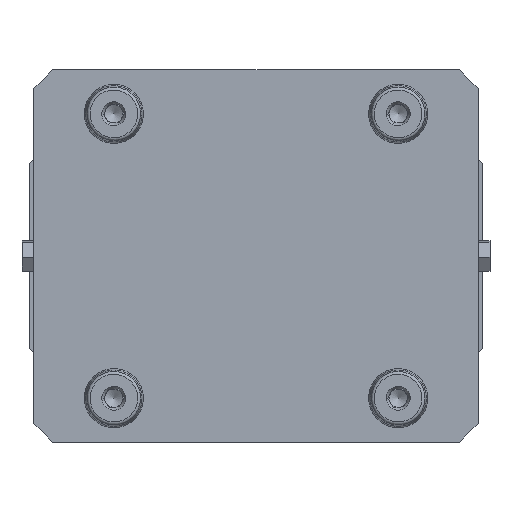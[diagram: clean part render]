
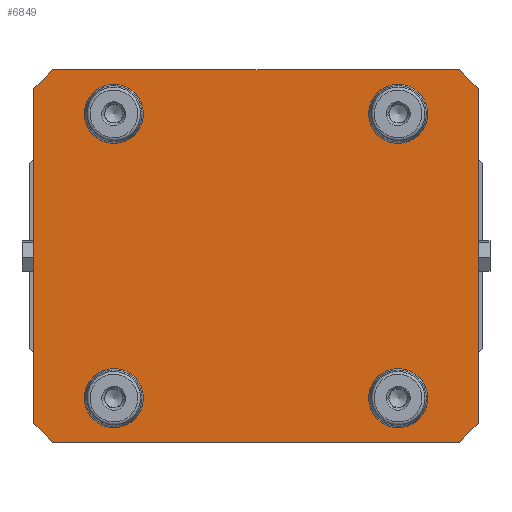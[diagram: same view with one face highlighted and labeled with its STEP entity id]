
A CAD part, front view. The second image highlights one B-rep face of the part: STEP entity #6849.
In plain terms, the highlighted planar face has unit normal (0, -1, 0).
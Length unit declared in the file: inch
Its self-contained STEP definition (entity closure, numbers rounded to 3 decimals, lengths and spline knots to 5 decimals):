
#622 = VECTOR ( 'NONE', #13980, 39.37008 ) ;
#709 = ORIENTED_EDGE ( 'NONE', *, *, #10777, .F. ) ;
#968 = CARTESIAN_POINT ( 'NONE',  ( 2.70276, 0., -2.475 ) ) ;
#1224 = VERTEX_POINT ( 'NONE', #7122 ) ;
#1393 = VERTEX_POINT ( 'NONE', #4914 ) ;
#1601 = CARTESIAN_POINT ( 'NONE',  ( -1.88976, 0., -1.88976 ) ) ;
#2154 = CARTESIAN_POINT ( 'NONE',  ( 2.95276, 0., 2.225 ) ) ;
#2334 = LINE ( 'NONE', #10472, #622 ) ;
#2337 = CARTESIAN_POINT ( 'NONE',  ( -2.95276, 0., -2.475 ) ) ;
#2408 = VERTEX_POINT ( 'NONE', #968 ) ;
#2642 = VECTOR ( 'NONE', #11661, 39.37008 ) ;
#2701 = EDGE_CURVE ( 'NONE', #4814, #3915, #6454, .T. ) ;
#3148 = VERTEX_POINT ( 'NONE', #6678 ) ;
#3407 = CIRCLE ( 'NONE', #11507, 0.31535 ) ;
#3915 = VERTEX_POINT ( 'NONE', #10150 ) ;
#3957 = CARTESIAN_POINT ( 'NONE',  ( -1.88976, 0., 1.88976 ) ) ;
#4062 = AXIS2_PLACEMENT_3D ( 'NONE', #3957, #5264, #10307 ) ;
#4245 = CIRCLE ( 'NONE', #7046, 0.31535 ) ;
#4323 = DIRECTION ( 'NONE',  ( -1., 0., 0. ) ) ;
#4623 = DIRECTION ( 'NONE',  ( 0., 0., 1. ) ) ;
#4663 = ORIENTED_EDGE ( 'NONE', *, *, #20624, .T. ) ;
#4680 = DIRECTION ( 'NONE',  ( 0., -1., 0. ) ) ;
#4732 = FACE_OUTER_BOUND ( 'NONE', #6354, .T. ) ;
#4814 = VERTEX_POINT ( 'NONE', #7847 ) ;
#4914 = CARTESIAN_POINT ( 'NONE',  ( -1.88976, 0., -1.57441 ) ) ;
#4915 = CARTESIAN_POINT ( 'NONE',  ( -2.95276, 0., -2.225 ) ) ;
#4943 = CARTESIAN_POINT ( 'NONE',  ( 2.95276, 0., 2.225 ) ) ;
#4956 = VECTOR ( 'NONE', #6575, 39.37008 ) ;
#5264 = DIRECTION ( 'NONE',  ( 0., -1., 0. ) ) ;
#5392 = ORIENTED_EDGE ( 'NONE', *, *, #13054, .F. ) ;
#6354 = EDGE_LOOP ( 'NONE', ( #12529, #11149, #16834, #9809, #7419, #4663, #5392, #16797 ) ) ;
#6454 = LINE ( 'NONE', #4915, #4956 ) ;
#6575 = DIRECTION ( 'NONE',  ( 0.707, 0., -0.707 ) ) ;
#6678 = CARTESIAN_POINT ( 'NONE',  ( 1.88976, 0., 2.20511 ) ) ;
#6849 = ADVANCED_FACE ( 'NONE', ( #14961, #16400, #13201, #19986, #4732 ), #13406, .F. ) ;
#6876 = CIRCLE ( 'NONE', #4062, 0.31535 ) ;
#7046 = AXIS2_PLACEMENT_3D ( 'NONE', #18528, #4680, #14797 ) ;
#7122 = CARTESIAN_POINT ( 'NONE',  ( 2.70276, 0., 2.475 ) ) ;
#7201 = VECTOR ( 'NONE', #15753, 39.37008 ) ;
#7419 = ORIENTED_EDGE ( 'NONE', *, *, #17181, .F. ) ;
#7847 = CARTESIAN_POINT ( 'NONE',  ( -2.95276, 0., -2.225 ) ) ;
#7988 = VERTEX_POINT ( 'NONE', #11629 ) ;
#8007 = CARTESIAN_POINT ( 'NONE',  ( 2.95276, 0., -2.475 ) ) ;
#8216 = DIRECTION ( 'NONE',  ( 0., 0., -1. ) ) ;
#8313 = DIRECTION ( 'NONE',  ( 0., 0., 1. ) ) ;
#8354 = DIRECTION ( 'NONE',  ( 0., 1., 0. ) ) ;
#8700 = EDGE_CURVE ( 'NONE', #2408, #8899, #10637, .T. ) ;
#8858 = VERTEX_POINT ( 'NONE', #14019 ) ;
#8888 = ORIENTED_EDGE ( 'NONE', *, *, #12548, .F. ) ;
#8899 = VERTEX_POINT ( 'NONE', #17219 ) ;
#8997 = DIRECTION ( 'NONE',  ( 0.707, 0., 0.707 ) ) ;
#9358 = ORIENTED_EDGE ( 'NONE', *, *, #13636, .F. ) ;
#9809 = ORIENTED_EDGE ( 'NONE', *, *, #17830, .T. ) ;
#9856 = CIRCLE ( 'NONE', #21410, 0.31535 ) ;
#9868 = VECTOR ( 'NONE', #4323, 39.37008 ) ;
#10150 = CARTESIAN_POINT ( 'NONE',  ( -2.70276, 0., -2.475 ) ) ;
#10307 = DIRECTION ( 'NONE',  ( 0., 0., -1. ) ) ;
#10472 = CARTESIAN_POINT ( 'NONE',  ( -2.70276, 0., 2.475 ) ) ;
#10637 = LINE ( 'NONE', #14041, #17509 ) ;
#10691 = LINE ( 'NONE', #10814, #18043 ) ;
#10777 = EDGE_CURVE ( 'NONE', #21253, #21253, #6876, .T. ) ;
#10814 = CARTESIAN_POINT ( 'NONE',  ( -2.95276, 0., 2.475 ) ) ;
#11149 = ORIENTED_EDGE ( 'NONE', *, *, #8700, .T. ) ;
#11488 = VERTEX_POINT ( 'NONE', #20872 ) ;
#11507 = AXIS2_PLACEMENT_3D ( 'NONE', #1601, #17967, #8313 ) ;
#11629 = CARTESIAN_POINT ( 'NONE',  ( 1.88976, 0., -2.20511 ) ) ;
#11661 = DIRECTION ( 'NONE',  ( -0.707, 0., 0.707 ) ) ;
#11700 = EDGE_LOOP ( 'NONE', ( #9358 ) ) ;
#11927 = VECTOR ( 'NONE', #8216, 39.37008 ) ;
#12361 = DIRECTION ( 'NONE',  ( 1., 0., 0. ) ) ;
#12529 = ORIENTED_EDGE ( 'NONE', *, *, #14073, .F. ) ;
#12548 = EDGE_CURVE ( 'NONE', #1393, #1393, #3407, .T. ) ;
#12732 = EDGE_LOOP ( 'NONE', ( #709 ) ) ;
#13054 = EDGE_CURVE ( 'NONE', #4814, #8858, #17392, .T. ) ;
#13201 = FACE_BOUND ( 'NONE', #16141, .T. ) ;
#13406 = PLANE ( 'NONE',  #20044 ) ;
#13578 = EDGE_CURVE ( 'NONE', #7988, #7988, #4245, .T. ) ;
#13636 = EDGE_CURVE ( 'NONE', #3148, #3148, #9856, .T. ) ;
#13784 = EDGE_LOOP ( 'NONE', ( #8888 ) ) ;
#13980 = DIRECTION ( 'NONE',  ( -0.707, 0., -0.707 ) ) ;
#14019 = CARTESIAN_POINT ( 'NONE',  ( -2.95276, 0., 2.225 ) ) ;
#14041 = CARTESIAN_POINT ( 'NONE',  ( 2.70276, 0., -2.475 ) ) ;
#14073 = EDGE_CURVE ( 'NONE', #2408, #3915, #20786, .T. ) ;
#14600 = VERTEX_POINT ( 'NONE', #2154 ) ;
#14683 = CARTESIAN_POINT ( 'NONE',  ( 1.88976, 0., 1.88976 ) ) ;
#14797 = DIRECTION ( 'NONE',  ( 0., 0., -1. ) ) ;
#14961 = FACE_BOUND ( 'NONE', #11700, .T. ) ;
#15753 = DIRECTION ( 'NONE',  ( 0., 0., 1. ) ) ;
#15911 = CARTESIAN_POINT ( 'NONE',  ( -1.88976, 0., 1.57441 ) ) ;
#16064 = ORIENTED_EDGE ( 'NONE', *, *, #13578, .F. ) ;
#16141 = EDGE_LOOP ( 'NONE', ( #16064 ) ) ;
#16400 = FACE_BOUND ( 'NONE', #13784, .T. ) ;
#16462 = DIRECTION ( 'NONE',  ( 0., 0., 1. ) ) ;
#16797 = ORIENTED_EDGE ( 'NONE', *, *, #2701, .T. ) ;
#16834 = ORIENTED_EDGE ( 'NONE', *, *, #20111, .F. ) ;
#17181 = EDGE_CURVE ( 'NONE', #11488, #1224, #10691, .T. ) ;
#17219 = CARTESIAN_POINT ( 'NONE',  ( 2.95276, 0., -2.225 ) ) ;
#17392 = LINE ( 'NONE', #2337, #7201 ) ;
#17509 = VECTOR ( 'NONE', #8997, 39.37008 ) ;
#17830 = EDGE_CURVE ( 'NONE', #14600, #1224, #19981, .T. ) ;
#17967 = DIRECTION ( 'NONE',  ( 0., -1., 0. ) ) ;
#18043 = VECTOR ( 'NONE', #12361, 39.37008 ) ;
#18115 = LINE ( 'NONE', #8007, #11927 ) ;
#18528 = CARTESIAN_POINT ( 'NONE',  ( 1.88976, 0., -1.88976 ) ) ;
#19045 = CARTESIAN_POINT ( 'NONE',  ( -2.95276, 0., -2.475 ) ) ;
#19981 = LINE ( 'NONE', #4943, #2642 ) ;
#19986 = FACE_BOUND ( 'NONE', #12732, .T. ) ;
#20044 = AXIS2_PLACEMENT_3D ( 'NONE', #21408, #8354, #4623 ) ;
#20111 = EDGE_CURVE ( 'NONE', #14600, #8899, #18115, .T. ) ;
#20624 = EDGE_CURVE ( 'NONE', #11488, #8858, #2334, .T. ) ;
#20786 = LINE ( 'NONE', #19045, #9868 ) ;
#20872 = CARTESIAN_POINT ( 'NONE',  ( -2.70276, 0., 2.475 ) ) ;
#21253 = VERTEX_POINT ( 'NONE', #15911 ) ;
#21363 = DIRECTION ( 'NONE',  ( 0., -1., 0. ) ) ;
#21408 = CARTESIAN_POINT ( 'NONE',  ( 0., 0., 0. ) ) ;
#21410 = AXIS2_PLACEMENT_3D ( 'NONE', #14683, #21363, #16462 ) ;
